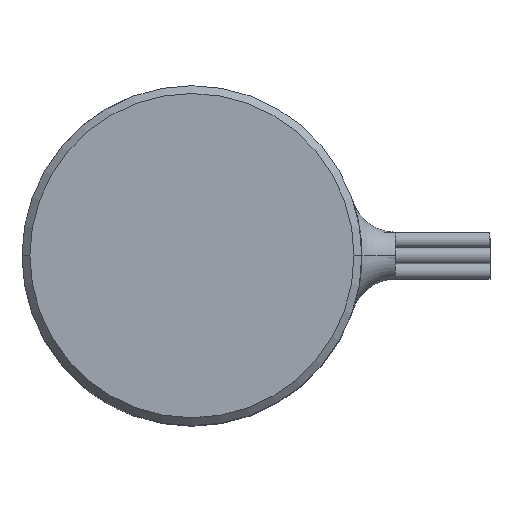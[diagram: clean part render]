
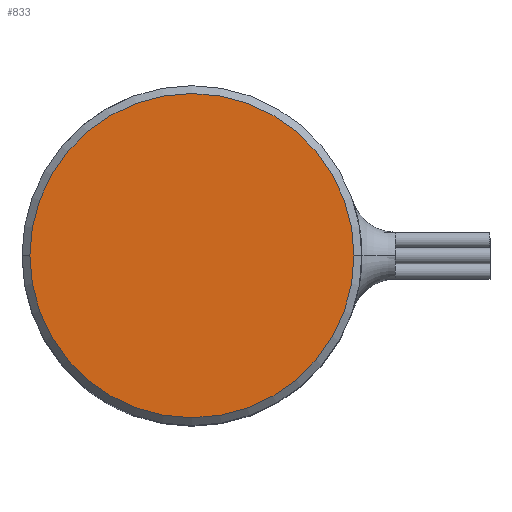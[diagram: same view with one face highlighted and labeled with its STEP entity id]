
A CAD part, top view. The second image highlights one B-rep face of the part: STEP entity #833.
In plain terms, the highlighted planar face has unit normal (0, 0, 1).
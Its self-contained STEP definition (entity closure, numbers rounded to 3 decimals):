
#833=ADVANCED_FACE('',(#1123),#1124,.T.);
#1123=FACE_OUTER_BOUND('',#1515,.T.);
#1124=PLANE('',#1516);
#1515=EDGE_LOOP('',(#2364,#2365));
#1516=AXIS2_PLACEMENT_3D('',#2366,#2367,#2368);
#2364=ORIENTED_EDGE('',*,*,#3300,.T.);
#2365=ORIENTED_EDGE('',*,*,#3263,.T.);
#2366=CARTESIAN_POINT('',(-16.351,2.973,14.4));
#2367=DIRECTION('',(0.0,0.0,1.0));
#2368=DIRECTION('',(1.0,0.0,0.0));
#3263=EDGE_CURVE('',#3788,#3792,#3794,.T.);
#3300=EDGE_CURVE('',#3792,#3788,#3850,.T.);
#3788=VERTEX_POINT('',#4747);
#3792=VERTEX_POINT('',#4752);
#3794=CIRCLE('',#4755,6.2);
#3850=CIRCLE('',#5066,6.2);
#4747=CARTESIAN_POINT('',(-22.551,2.973,14.4));
#4752=CARTESIAN_POINT('',(-10.151,2.973,14.4));
#4755=AXIS2_PLACEMENT_3D('',#5993,#5994,#5995);
#5066=AXIS2_PLACEMENT_3D('',#6023,#6024,#6025);
#5993=CARTESIAN_POINT('',(-16.351,2.973,14.4));
#5994=DIRECTION('',(0.0,0.0,1.0));
#5995=DIRECTION('',(1.0,0.0,0.0));
#6023=CARTESIAN_POINT('',(-16.351,2.973,14.4));
#6024=DIRECTION('',(0.0,0.0,1.0));
#6025=DIRECTION('',(1.0,0.0,0.0));
